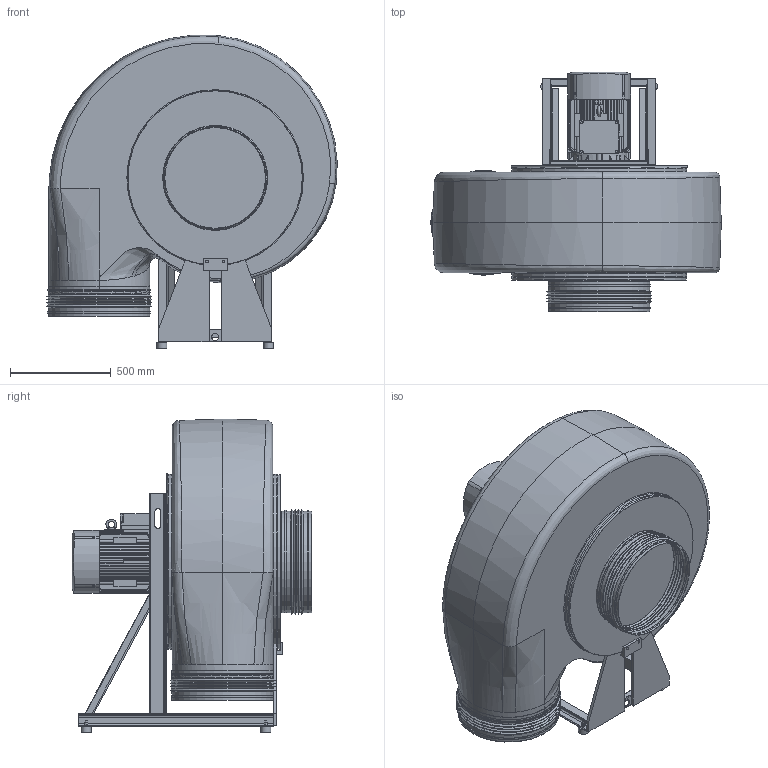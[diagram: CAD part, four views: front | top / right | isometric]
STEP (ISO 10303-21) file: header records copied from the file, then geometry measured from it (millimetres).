
FILE_DESCRIPTION( ( 'Unknown' ), '1' );
FILE_NAME( 'K:/HOME/HLT_CAD/Z/HF/3D/Zusammenstellung/HFR/HFR 15_17/HFR...-15D/DS_1/HFR_500-15D/GR180/HFR_500-15D_DS1_GR_180_160.stp', 'Unknown', ( 'Unknown' ), ( 'Unknown' ), 'PSStep 17.0.49', 'Unknown', ' ' );
FILE_SCHEMA( ( 'AUTOMOTIVE_DESIGN { 1 0 10303 214 1 1 1 1 }' ) );
Length unit declared in the file: millimetre
Products named in the file (36): 5003_Man 500; 5003_Manschettenband_Ø500; 5003_4_Schelle_Ø500; 5140_Gehäusedeckel; 500; 5140_Rohr; GD_FL 500; 5140_Rohr_400; HFR 500_GR; Gehäuse 500_GR_Abgeschn; Ensat-Buchse-M8; 5218_Abdeckkappe; 5218_Drehteil; 5218_Flachdichtung_Ø90; 5218_Flachdichtung_Ø32; 5218_Schraubkappe; 5118_Gestell_HFR500-15D; C-Channel 65x42-oa0; C-Channel 65x42-oa1; Angle 60x30x5-oa2; Angle 40x40x4-oa3; Angle 40x40x4-oa4; Angle 40x40x4-oa5; Angle 80x40x6-oa6; Angle 80x40x6-oa7; Angle 25x4-oa8; 5118_Gehäuseplatte; Assem1; 6611_Motorring_Bg160+180; 6kant_M10; 5200_Befestigungsklammer_HFR500; Schwidä_50x30; 5200_Stützplatte_HFR500_90°-180°-360°_DS1; 2012_42; B5_160M_2HIHI
Assembly tree (115 placements, depth 3):
  Assem1
    6611_Motorring_Bg160+180
    6kant_M10  x4
    5200_Befestigungsklammer_HFR500
    Schwidä_50x30  x4
    5200_Stützplatte_HFR500_90°-180°-360°_DS1
    5200_Stützplatte_HFR500_90°-180°-360°_DS1
    2012_42
    B5_160M_2HIHI
    HFR 500_GR
      Gehäuse 500_GR_Abgeschn
      Ensat-Buchse-M8  x72
    5140_Gehäusedeckel
      500  x2
      5140_Rohr
      GD_FL 500
      5140_Rohr_400
    5003_Man 500  x2
      5003_Manschettenband_Ø500
      5003_4_Schelle_Ø500
    5218_Abdeckkappe
      5218_Drehteil
      5218_Flachdichtung_Ø90
      5218_Flachdichtung_Ø32
      5218_Schraubkappe
    5118_Gestell_HFR500-15D
      C-Channel 65x42-oa0
      C-Channel 65x42-oa1
      Angle 60x30x5-oa2
      Angle 40x40x4-oa3
      Angle 40x40x4-oa4
      Angle 40x40x4-oa5
      Angle 80x40x6-oa6
      Angle 80x40x6-oa7
      Angle 25x4-oa8
      5118_Gehäuseplatte
Bounding box: 1443.7 x 1191.81 x 1559.9 mm (x, y, z)
Volume: 823150510.3 mm3; surface area: 13597086.2 mm2
Topology: 120 solids, 152 shells, 2177 faces, 4628 edges, 3098 vertices
Faces by surface type: plane 1139, cylinder 788, cone 186, bspline 28, torus 26, revolution 6, sphere 4
Full cylindrical faces by diameter (mm): 6.647 x72, 8.37 x4, 8.376 x4, 10 x8, 10.5 x8, 11 x4, 12 x184, 12.5 x1, 13 x226, 14 x12, 14.5 x4, 15 x4, 16 x16, 18 x12, 20 x1, 25 x1, 30 x1, 30.291 x1, 31 x1, 32 x1, 36 x1, 37 x1, 40 x1, 42 x1, 48 x2, 50 x5, 75 x1, 77 x1, 90 x1, 93 x1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
Entity records: 75561 total; most frequent: CARTESIAN_POINT 24123, DIRECTION 6295, ORIENTED_EDGE 5816, STYLED_ITEM 3265, PRESENTATION_STYLE_ASSIGNMENT 3265, COLOUR_RGB 3265, EDGE_CURVE 2908, AXIS2_PLACEMENT_3D 2434
